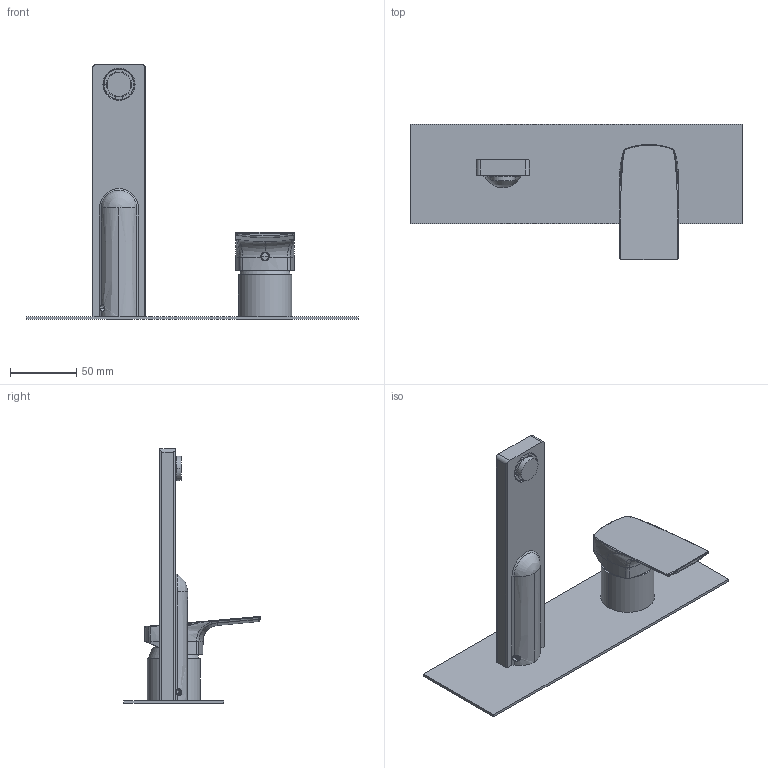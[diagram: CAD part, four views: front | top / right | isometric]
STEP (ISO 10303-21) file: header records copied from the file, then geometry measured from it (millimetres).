
FILE_DESCRIPTION((''),'2;1');
FILE_NAME('3D_SW0004','2024-10-07T14:56:19',('volponeff'),(''),'CREO PARAMETRIC BY PTC INC, 2022014','CREO PARAMETRIC BY PTC INC, 2022014','');
FILE_SCHEMA(('CONFIG_CONTROL_DESIGN'));
Products named in the file (1): 3D_SW0004
Bounding box: 250 x 102.5 x 192 mm (x, y, z)
Volume: 176733.6 mm3; surface area: 111425.2 mm2
Topology: 3 solids, 3 shells, 933 faces, 2635 edges, 1708 vertices
Faces by surface type: cylinder 353, plane 310, bspline 100, torus 87, cone 67, sphere 16
Entity records: 65645 total; most frequent: CARTESIAN_POINT 42180, ORIENTED_EDGE 5252, DIRECTION 4548, EDGE_CURVE 2626, VERTEX_POINT 1708, AXIS2_PLACEMENT_3D 1705, VECTOR 1138, LINE 1138
